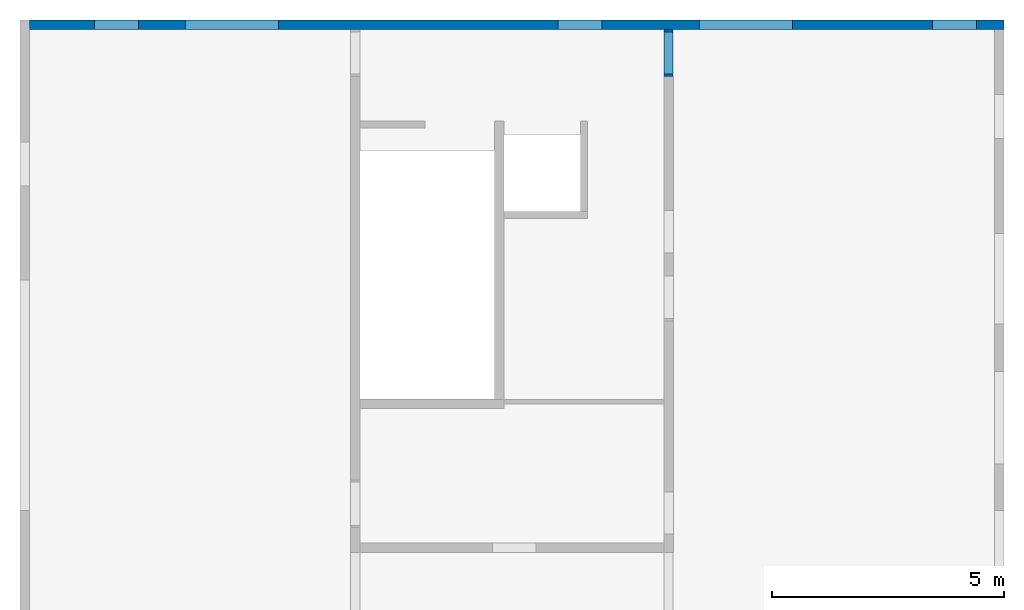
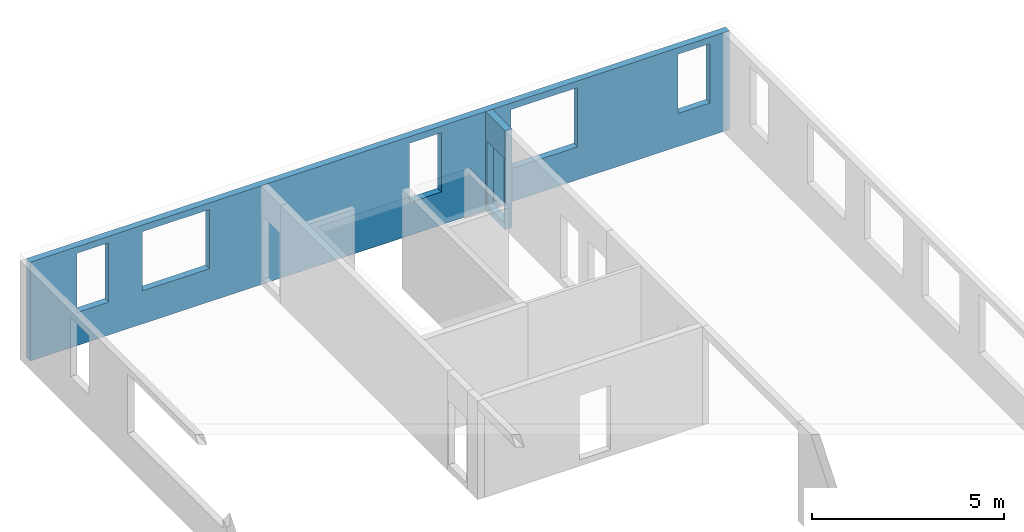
# One storey, part 2 of 2: 2 walls, 6 openings.
"""IFC2X3 building model written with IfcOpenShell, lengths in millimetres."""

from ifc_helpers import new_model, entity, si_unit, converted_unit, frame, frame_2d, origin, origin_with_axes, place, context, subcontext, project, spatial, polyline, rectangle, outline, extrude, material, layer, layer_set, layer_usage, element, save


model = new_model("IFC2X3")

# Units and contexts
model_context = context("Model", 3, precision=1e-05, world=origin())
body_context = subcontext(model_context, "Body", "Model", "MODEL_VIEW")
ifc_project = project(units=[si_unit("LENGTHUNIT", "METRE", prefix="MILLI"), converted_unit("PLANEANGLEUNIT", "DEGREE", entity("IfcPlaneAngleMeasure", 0.0174532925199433), si_unit("PLANEANGLEUNIT", "RADIAN"), dimensions=[0, 0, 0, 0, 0, 0, 0]), si_unit("AREAUNIT", "SQUARE_METRE"), si_unit("VOLUMEUNIT", "CUBIC_METRE")], contexts=[model_context])

# Building, storey
building_placement = place(None, origin())
building = spatial("IfcBuilding", under=ifc_project, at=building_placement, Name="Bâtiment", CompositionType="ELEMENT")
storey_placement = place(building_placement, frame((0.0, 0.0, 14770.0), z_axis=(0.0, 0.0, 1.0), x_axis=(1.0, 0.0, 0.0)))
storey = spatial("IfcBuildingStorey", under=building, at=storey_placement, Name="4. Etage supérieur", CompositionType="ELEMENT", Elevation=14770.0)

# Wall, opening
ifc_material_1 = material(Name="<Unnamed Material>")
ifc_layer_1 = layer(ifc_material_1, 200.0)
ifc_layer_set_1 = layer_set([ifc_layer_1])
ifc_layer_usage_1 = layer_usage(ifc_layer_set_1, "AXIS2", "POSITIVE", -200.0)
wall_1_placement = place(storey_placement, frame((11831.19887067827, -11933.31105644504, -200.0), z_axis=(0.0, 0.0, 1.0), x_axis=(0.0, 1.0, 0.0)))
wall_1 = element("IfcWallStandardCase", 1, at=wall_1_placement, inside=storey, material=ifc_layer_usage_1, Name="<Unnamed Element>", context=body_context, shape_type="SweptSolid", body=[
    extrude(rectangle(XDim=1019.737922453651, YDim=200.0, at=frame_2d((509.8689612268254, 100.0), x_axis=(1.0, 0.0))), origin_with_axes(), (0.0, 0.0, 1.0), 3140.0),
])
opening_1_placement = place(wall_1_placement, frame((60.10082773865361, 0.0, 200.0), z_axis=(0.0, 1.0, 0.0), x_axis=(0.0, 0.0, 1.0)))
element("IfcOpeningElement", 2, at=opening_1_placement, cuts=wall_1, Name="Porte-fenêtre", ObjectType="Opening", context=body_context, shape_type="SweptSolid", body=[
    extrude(rectangle(XDim=2040.0, YDim=900.0, at=frame_2d((1020.0, 450.0), x_axis=(1.0, 0.0))), origin_with_axes(), (0.0, 0.0, 1.0), 200.0),
])

# Wall, openings
ifc_material_2 = material(Name="<Unnamed Material>")
ifc_layer_2 = layer(ifc_material_2, 200.0)
ifc_layer_set_2 = layer_set([ifc_layer_2])
ifc_layer_usage_2 = layer_usage(ifc_layer_set_2, "AXIS2", "POSITIVE", -100.0)
wall_2_placement = place(storey_placement, frame((-2042.186712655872, -10913.57313399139, -200.0), z_axis=(0.0, 0.0, 1.0), x_axis=(1.0, 1.732388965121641e-16, 0.0)))
wall_2 = element("IfcWallStandardCase", 3, at=wall_2_placement, inside=storey, material=ifc_layer_usage_2, Name="<Unnamed Element>", context=body_context, shape_type="SweptSolid", body=[
    extrude(outline(polyline([(7125.332321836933, 5.846046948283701e-13), (20999.78053621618, 0.0), (20999.78053621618, 200.0), (3.464777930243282e-14, 200.0), (0.0, 0.0), (6925.332321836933, 6.192524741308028e-13), (6925.332321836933, 0.522670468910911), (7125.332321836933, 0.5226704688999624), (7125.332321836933, 5.846046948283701e-13)])), origin_with_axes(), (0.0, 0.0, 1.0), 3140.0),
])
opening_2_placement = place(wall_2_placement, frame((19459.12643644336, 3.637978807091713e-12, 1050.0), z_axis=(0.0, 1.0, 0.0), x_axis=(0.0, 0.0, 1.0)))
element("IfcOpeningElement", 4, at=opening_2_placement, cuts=wall_2, Name="Baie de fenêtre", ObjectType="Opening", context=body_context, shape_type="SweptSolid", body=[
    extrude(rectangle(XDim=1880.0, YDim=950.0, at=frame_2d((940.0, 475.0), x_axis=(1.0, 0.0))), origin_with_axes(), (0.0, 0.0, 1.0), 200.0),
])
opening_3_placement = place(wall_2_placement, frame((14439.12643644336, 3.637978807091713e-12, 1050.0), z_axis=(0.0, 1.0, 0.0), x_axis=(0.0, 0.0, 1.0)))
element("IfcOpeningElement", 5, at=opening_3_placement, cuts=wall_2, Name="Baie de fenêtre", ObjectType="Opening", context=body_context, shape_type="SweptSolid", body=[
    extrude(rectangle(XDim=1880.0, YDim=2000.0, at=frame_2d((940.0, 1000.0), x_axis=(1.0, 0.0))), origin_with_axes(), (0.0, 0.0, 1.0), 200.0),
])
opening_4_placement = place(wall_2_placement, frame((11390.0, 1.818989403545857e-12, 1050.0), z_axis=(0.0, 1.0, 0.0), x_axis=(0.0, 0.0, 1.0)))
element("IfcOpeningElement", 6, at=opening_4_placement, cuts=wall_2, Name="Baie de fenêtre", ObjectType="Opening", context=body_context, shape_type="SweptSolid", body=[
    extrude(rectangle(XDim=1880.0, YDim=950.0, at=frame_2d((940.0, 475.0), x_axis=(1.0, 0.0))), origin_with_axes(), (0.0, 0.0, 1.0), 200.0),
])
opening_5_placement = place(wall_2_placement, frame((3370.0, 0.0, 1050.0), z_axis=(0.0, 1.0, 0.0), x_axis=(0.0, 0.0, 1.0)))
element("IfcOpeningElement", 7, at=opening_5_placement, cuts=wall_2, Name="Baie de fenêtre", ObjectType="Opening", context=body_context, shape_type="SweptSolid", body=[
    extrude(rectangle(XDim=1880.0, YDim=2000.0, at=frame_2d((940.0, 1000.0), x_axis=(1.0, 0.0))), origin_with_axes(), (0.0, 0.0, 1.0), 200.0),
])
opening_6_placement = place(wall_2_placement, frame((1400.0, 0.0, 1050.0), z_axis=(0.0, 1.0, 0.0), x_axis=(0.0, 0.0, 1.0)))
element("IfcOpeningElement", 8, at=opening_6_placement, cuts=wall_2, Name="Baie de fenêtre", ObjectType="Opening", context=body_context, shape_type="SweptSolid", body=[
    extrude(rectangle(XDim=1879.999999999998, YDim=949.9999999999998, at=frame_2d((939.9999999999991, 474.9999999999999), x_axis=(1.0, 0.0))), origin_with_axes(), (0.0, 0.0, 1.0), 200.0),
])

save(model, "model.ifc")
